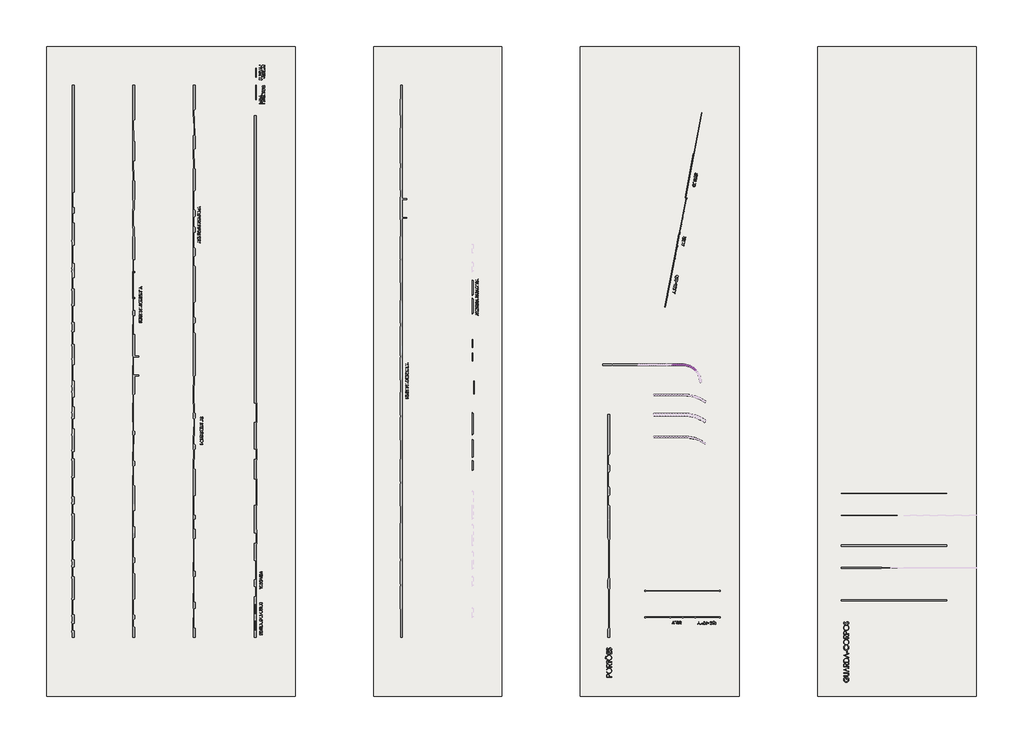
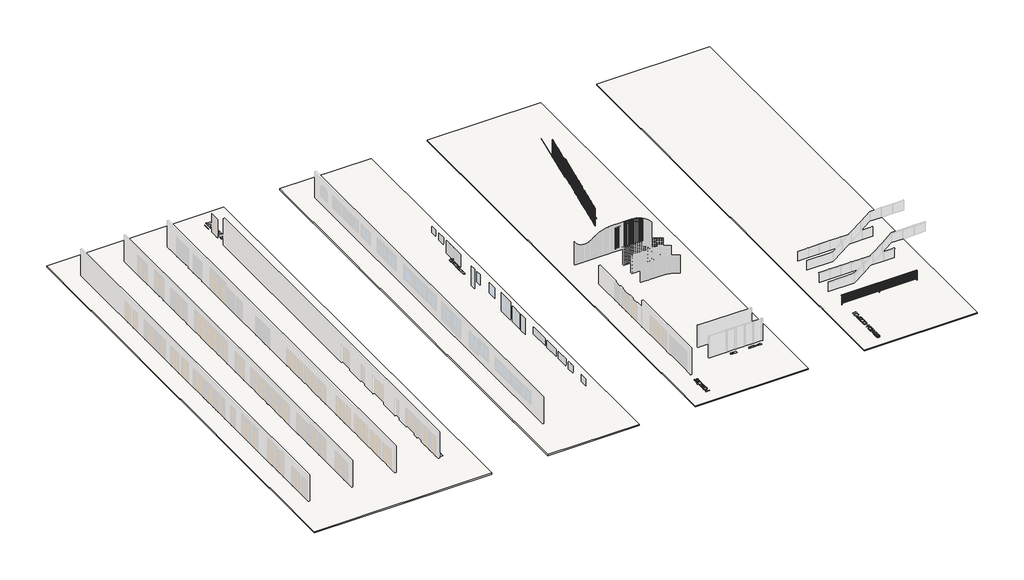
# One storey, part 11 of 15: 63 members, 35 plates, 4 slabs, 3 railings.
"""IFC4 building model written with IfcOpenShell, lengths in millimetres."""

from ifc_helpers import new_model, si_unit, frame, origin, place, context, project, spatial, polyline, outline, extrude, transform, mapped, element, save
from components import circular_mullion_9bc5a1a1, circular_mullion_f2f76ee6, circular_mullion_af346b7b, circular_mullion_dbe84026, circular_mullion_bf9e67b6, circular_mullion_8275ad20, circular_mullion_3d088c91, rectangular_mullion_8aaab3e9, rectangular_mullion_91b8a297, plate_01_dc694022, plate_01_8dd8e818, plate_01_d532bac2, empty_system_panel_vazio_14d0cb9b, empty_system_panel_vazio_91d6d3db, empty_system_panel_vazio_61c9f610, empty_system_panel_vazio_fe81b130, empty_system_panel_vazio_3a64aa83, railing_6e855a38, railing_bfe3bd23, v_110_01_298ecec1

model = new_model("IFC4")

# Units and contexts
model_context = context("Model", 3, world=origin())
ifc_project = project(units=[si_unit("LENGTHUNIT", "METRE", prefix="MILLI")], contexts=[model_context])

# Site, building, storey
site = spatial("IfcSite", under=ifc_project)
building = spatial("IfcBuilding", under=site)
storey = spatial("IfcBuildingStorey", under=building, Name="TÉRREO", Elevation=0.0)

# Members
placement = place(None, origin())
circular_mullion_shape = circular_mullion_9bc5a1a1(model_context)
element("IfcMember", 1, ObjectType="Circular Mullion : GRADIL 40mm", at=placement, inside=storey, context=model_context, shape_type="MappedRepresentation", body=[
    mapped(circular_mullion_shape, transform((45630.1406224, 8426.4806607, 0.0), x_axis=(-1.0, 0.0, 0.0), y_axis=(0.0, 1.0, 0.0), z_axis=(0.0, 0.0, -1.0))),
])
element("IfcMember", 2, ObjectType="Circular Mullion : GRADIL 40mm", at=placement, inside=storey, context=model_context, shape_type="MappedRepresentation", body=[
    mapped(circular_mullion_shape, transform((45481.3601346, 8426.4806607, 0.0), x_axis=(-1.0, 0.0, 0.0), y_axis=(0.0, 1.0, 0.0), z_axis=(0.0, 0.0, -1.0))),
])
element("IfcMember", 3, ObjectType="Circular Mullion : GRADIL 40mm", at=placement, inside=storey, context=model_context, shape_type="MappedRepresentation", body=[
    mapped(circular_mullion_shape, transform((45332.5796468, 8426.4806607, 0.0), x_axis=(-1.0, 0.0, 0.0), y_axis=(0.0, 1.0, 0.0), z_axis=(0.0, 0.0, -1.0))),
])
element("IfcMember", 4, ObjectType="Circular Mullion : GRADIL 40mm", at=placement, inside=storey, context=model_context, shape_type="MappedRepresentation", body=[
    mapped(circular_mullion_shape, transform((45183.799159, 8426.4806607, 0.0), x_axis=(-1.0, 0.0, 0.0), y_axis=(0.0, 1.0, 0.0), z_axis=(0.0, 0.0, -1.0))),
])
element("IfcMember", 5, ObjectType="Circular Mullion : GRADIL 40mm", at=placement, inside=storey, context=model_context, shape_type="MappedRepresentation", body=[
    mapped(circular_mullion_shape, transform((45035.0186712, 8426.4806607, 0.0), x_axis=(-1.0, 0.0, 0.0), y_axis=(0.0, 1.0, 0.0), z_axis=(0.0, 0.0, -1.0))),
])
circular_mullion_2_shape = circular_mullion_f2f76ee6(model_context)
element("IfcMember", 6, ObjectType="Circular Mullion : GRADIL 40mm", at=placement, inside=storey, context=model_context, shape_type="MappedRepresentation", body=[
    mapped(circular_mullion_2_shape, transform((45630.1406224, 8426.4806607, 2720.0), x_axis=(-1.0, 0.0, 0.0), y_axis=(0.0, 1.0, 0.0), z_axis=(0.0, 0.0, -1.0))),
])
element("IfcMember", 7, ObjectType="Circular Mullion : GRADIL 40mm", at=placement, inside=storey, context=model_context, shape_type="MappedRepresentation", body=[
    mapped(circular_mullion_2_shape, transform((45481.3601346, 8426.4806607, 2720.0), x_axis=(-1.0, 0.0, 0.0), y_axis=(0.0, 1.0, 0.0), z_axis=(0.0, 0.0, -1.0))),
])
element("IfcMember", 8, ObjectType="Circular Mullion : GRADIL 40mm", at=placement, inside=storey, context=model_context, shape_type="MappedRepresentation", body=[
    mapped(circular_mullion_2_shape, transform((45332.5796468, 8426.4806607, 2720.0), x_axis=(-1.0, 0.0, 0.0), y_axis=(0.0, 1.0, 0.0), z_axis=(0.0, 0.0, -1.0))),
])
element("IfcMember", 9, ObjectType="Circular Mullion : GRADIL 40mm", at=placement, inside=storey, context=model_context, shape_type="MappedRepresentation", body=[
    mapped(circular_mullion_2_shape, transform((45183.799159, 8426.4806607, 2720.0), x_axis=(-1.0, 0.0, 0.0), y_axis=(0.0, 1.0, 0.0), z_axis=(0.0, 0.0, -1.0))),
])
element("IfcMember", 10, ObjectType="Circular Mullion : GRADIL 40mm", at=placement, inside=storey, context=model_context, shape_type="MappedRepresentation", body=[
    mapped(circular_mullion_2_shape, transform((45035.0186712, 8426.4806607, 2720.0), x_axis=(-1.0, 0.0, 0.0), y_axis=(0.0, 1.0, 0.0), z_axis=(0.0, 0.0, -1.0))),
])
element("IfcMember", 11, ObjectType="Circular Mullion : GRADIL 40mm", at=placement, inside=storey, context=model_context, shape_type="MappedRepresentation", body=[
    mapped(circular_mullion_2_shape, transform((46700.7070956, 8088.8445957, 2720.0), x_axis=(-0.7541066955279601, 0.6567519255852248, 0.0), y_axis=(0.6567519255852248, 0.7541066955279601, 0.0), z_axis=(0.0, 0.0, -1.0))),
])
element("IfcMember", 12, ObjectType="Circular Mullion : GRADIL 40mm", at=placement, inside=storey, context=model_context, shape_type="MappedRepresentation", body=[
    mapped(circular_mullion_2_shape, transform((46587.8449988, 8177.214565, 2720.0), x_axis=(-0.8184647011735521, 0.5745568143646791, 0.0), y_axis=(0.5745568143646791, 0.8184647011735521, 0.0), z_axis=(0.0, 0.0, -1.0))),
])
element("IfcMember", 13, ObjectType="Circular Mullion : GRADIL 40mm", at=placement, inside=storey, context=model_context, shape_type="MappedRepresentation", body=[
    mapped(circular_mullion_2_shape, transform((46466.3852181, 8253.337006, 2720.0), x_axis=(-0.8739030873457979, 0.4861001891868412, 0.0), y_axis=(0.4861001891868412, 0.8739030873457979, 0.0), z_axis=(0.0, 0.0, -1.0))),
])
element("IfcMember", 14, ObjectType="Circular Mullion : GRADIL 40mm", at=placement, inside=storey, context=model_context, shape_type="MappedRepresentation", body=[
    mapped(circular_mullion_2_shape, transform((46337.6514207, 8316.3823371, 2720.0), x_axis=(-0.9198176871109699, 0.39234604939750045, 0.0), y_axis=(0.39234604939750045, 0.9198176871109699, 0.0), z_axis=(0.0, 0.0, -1.0))),
])
element("IfcMember", 15, ObjectType="Circular Mullion : GRADIL 40mm", at=placement, inside=storey, context=model_context, shape_type="MappedRepresentation", body=[
    mapped(circular_mullion_2_shape, transform((46203.0465462, 8365.6634909, 2720.0), x_axis=(-0.9557081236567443, 0.294316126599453, 0.0), y_axis=(0.294316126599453, 0.9557081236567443, 0.0), z_axis=(0.0, 0.0, -1.0))),
])
element("IfcMember", 16, ObjectType="Circular Mullion : GRADIL 40mm", at=placement, inside=storey, context=model_context, shape_type="MappedRepresentation", body=[
    mapped(circular_mullion_2_shape, transform((46064.037517, 8400.6434021, 2720.0), x_axis=(-0.9811832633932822, 0.19307874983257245, 0.0), y_axis=(0.19307874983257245, 0.9811832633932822, 0.0), z_axis=(0.0, 0.0, -1.0))),
])
element("IfcMember", 17, ObjectType="Circular Mullion : GRADIL 40mm", at=placement, inside=storey, context=model_context, shape_type="MappedRepresentation", body=[
    mapped(circular_mullion_2_shape, transform((45922.1392522, 8420.9408598, 2720.0), x_axis=(-0.9959654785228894, 0.08973720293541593, 0.0), y_axis=(0.08973720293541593, 0.9959654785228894, 0.0), z_axis=(0.0, 0.0, -1.0))),
])
circular_mullion_3_shape = circular_mullion_af346b7b(model_context)
element("IfcMember", 18, ObjectType="Circular Mullion : GRADIL 40mm", at=placement, inside=storey, context=model_context, shape_type="MappedRepresentation", body=[
    mapped(circular_mullion_3_shape, transform((45630.1406224, 8426.4806607, 256.7936467), x_axis=(-1.0, 0.0, 0.0), y_axis=(0.0, 1.0, 0.0), z_axis=(0.0, 0.0, -1.0))),
])
element("IfcMember", 19, ObjectType="Circular Mullion : GRADIL 40mm", at=placement, inside=storey, context=model_context, shape_type="MappedRepresentation", body=[
    mapped(circular_mullion_3_shape, transform((45481.3601346, 8426.4806607, 256.7936467), x_axis=(-1.0, 0.0, 0.0), y_axis=(0.0, 1.0, 0.0), z_axis=(0.0, 0.0, -1.0))),
])
element("IfcMember", 20, ObjectType="Circular Mullion : GRADIL 40mm", at=placement, inside=storey, context=model_context, shape_type="MappedRepresentation", body=[
    mapped(circular_mullion_3_shape, transform((45332.5796468, 8426.4806607, 256.7936467), x_axis=(-1.0, 0.0, 0.0), y_axis=(0.0, 1.0, 0.0), z_axis=(0.0, 0.0, -1.0))),
])
element("IfcMember", 21, ObjectType="Circular Mullion : GRADIL 40mm", at=placement, inside=storey, context=model_context, shape_type="MappedRepresentation", body=[
    mapped(circular_mullion_3_shape, transform((45183.799159, 8426.4806607, 256.7936467), x_axis=(-1.0, 0.0, 0.0), y_axis=(0.0, 1.0, 0.0), z_axis=(0.0, 0.0, -1.0))),
])
element("IfcMember", 22, ObjectType="Circular Mullion : GRADIL 40mm", at=placement, inside=storey, context=model_context, shape_type="MappedRepresentation", body=[
    mapped(circular_mullion_3_shape, transform((45035.0186712, 8426.4806607, 256.7936467), x_axis=(-1.0, 0.0, 0.0), y_axis=(0.0, 1.0, 0.0), z_axis=(0.0, 0.0, -1.0))),
])
element("IfcMember", 23, ObjectType="Circular Mullion : GRADIL 40mm", at=placement, inside=storey, context=model_context, shape_type="MappedRepresentation", body=[
    mapped(circular_mullion_3_shape, transform((44886.2381834, 8426.4806607, 256.7936467), x_axis=(-1.0, 0.0, 0.0), y_axis=(0.0, 1.0, 0.0), z_axis=(0.0, 0.0, -1.0))),
])
element("IfcMember", 24, ObjectType="Circular Mullion : GRADIL 40mm", at=placement, inside=storey, context=model_context, shape_type="MappedRepresentation", body=[
    mapped(circular_mullion_3_shape, transform((44737.4576956, 8426.4806607, 256.7936467), x_axis=(-1.0, 0.0, 0.0), y_axis=(0.0, 1.0, 0.0), z_axis=(0.0, 0.0, -1.0))),
])
element("IfcMember", 25, ObjectType="Circular Mullion : GRADIL 40mm", at=placement, inside=storey, context=model_context, shape_type="MappedRepresentation", body=[
    mapped(circular_mullion_3_shape, transform((44588.6772078, 8426.4806607, 256.7936467), x_axis=(-1.0, 0.0, 0.0), y_axis=(0.0, 1.0, 0.0), z_axis=(0.0, 0.0, -1.0))),
])
element("IfcMember", 26, ObjectType="Circular Mullion : GRADIL 40mm", at=placement, inside=storey, context=model_context, shape_type="MappedRepresentation", body=[
    mapped(circular_mullion_3_shape, transform((44439.89672, 8426.4806607, 256.7936467), x_axis=(-1.0, 0.0, 0.0), y_axis=(0.0, 1.0, 0.0), z_axis=(0.0, 0.0, -1.0))),
])
element("IfcMember", 27, ObjectType="Circular Mullion : GRADIL 40mm", at=placement, inside=storey, context=model_context, shape_type="MappedRepresentation", body=[
    mapped(circular_mullion_3_shape, transform((44291.1162322, 8426.4806607, 256.7936467), x_axis=(-1.0, 0.0, 0.0), y_axis=(0.0, 1.0, 0.0), z_axis=(0.0, 0.0, -1.0))),
])
element("IfcMember", 28, ObjectType="Circular Mullion : GRADIL 40mm", at=placement, inside=storey, context=model_context, shape_type="MappedRepresentation", body=[
    mapped(circular_mullion_3_shape, transform((44142.3357444, 8426.4806607, 256.7936467), x_axis=(-1.0, 0.0, 0.0), y_axis=(0.0, 1.0, 0.0), z_axis=(0.0, 0.0, -1.0))),
])
circular_mullion_4_shape = circular_mullion_dbe84026(model_context)
element("IfcMember", 29, ObjectType="Circular Mullion : GRADIL 40mm", at=placement, inside=storey, context=model_context, shape_type="MappedRepresentation", body=[
    mapped(circular_mullion_4_shape, transform((45798.9211102, 8426.4806607, 3000.0), x_axis=(1.0, 0.0, 0.0), y_axis=(0.0, 1.0, 0.0), z_axis=(0.0, 0.0, 1.0))),
])
circular_mullion_5_shape = circular_mullion_bf9e67b6(model_context)
element("IfcMember", 30, ObjectType="Circular Mullion : GRADIL 40mm", at=placement, inside=storey, context=model_context, shape_type="MappedRepresentation", body=[
    mapped(circular_mullion_5_shape, transform((45798.9211102, 8426.4806607, 2720.0), x_axis=(1.0, 0.0, 0.0), y_axis=(0.0, 1.0, 0.0), z_axis=(0.0, 0.0, 1.0))),
])
circular_mullion_6_shape = circular_mullion_8275ad20(model_context)
element("IfcMember", 31, ObjectType="Circular Mullion : GRADIL 40mm", at=placement, inside=storey, context=model_context, shape_type="MappedRepresentation", body=[
    mapped(circular_mullion_6_shape, transform((45798.9211102, 8426.4806607, 256.7936467), x_axis=(1.0, 0.0, 0.0), y_axis=(0.0, 1.0, 0.0), z_axis=(0.0, 0.0, 1.0))),
])
circular_mullion_7_shape = circular_mullion_3d088c91(model_context)
element("IfcMember", 32, ObjectType="Circular Mullion : GRADIL 40mm", at=placement, inside=storey, context=model_context, shape_type="MappedRepresentation", body=[
    mapped(circular_mullion_7_shape, transform((46700.7070956, 8088.8445957, 0.0), x_axis=(-0.7541066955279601, 0.6567519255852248, 0.0), y_axis=(0.6567519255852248, 0.7541066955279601, 0.0), z_axis=(0.0, 0.0, -1.0))),
])
element("IfcMember", 33, ObjectType="Circular Mullion : GRADIL 40mm", at=placement, inside=storey, context=model_context, shape_type="MappedRepresentation", body=[
    mapped(circular_mullion_7_shape, transform((46587.8449988, 8177.214565, 0.0), x_axis=(-0.8184647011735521, 0.5745568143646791, 0.0), y_axis=(0.5745568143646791, 0.8184647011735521, 0.0), z_axis=(0.0, 0.0, -1.0))),
])
element("IfcMember", 34, ObjectType="Circular Mullion : GRADIL 40mm", at=placement, inside=storey, context=model_context, shape_type="MappedRepresentation", body=[
    mapped(circular_mullion_7_shape, transform((46466.3852181, 8253.337006, 0.0), x_axis=(-0.8739030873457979, 0.4861001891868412, 0.0), y_axis=(0.4861001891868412, 0.8739030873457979, 0.0), z_axis=(0.0, 0.0, -1.0))),
])
element("IfcMember", 35, ObjectType="Circular Mullion : GRADIL 40mm", at=placement, inside=storey, context=model_context, shape_type="MappedRepresentation", body=[
    mapped(circular_mullion_7_shape, transform((46337.6514207, 8316.3823371, 0.0), x_axis=(-0.9198176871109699, 0.39234604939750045, 0.0), y_axis=(0.39234604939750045, 0.9198176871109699, 0.0), z_axis=(0.0, 0.0, -1.0))),
])
element("IfcMember", 36, ObjectType="Circular Mullion : GRADIL 40mm", at=placement, inside=storey, context=model_context, shape_type="MappedRepresentation", body=[
    mapped(circular_mullion_7_shape, transform((46203.0465462, 8365.6634909, 0.0), x_axis=(-0.9557081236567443, 0.294316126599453, 0.0), y_axis=(0.294316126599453, 0.9557081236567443, 0.0), z_axis=(0.0, 0.0, -1.0))),
])
element("IfcMember", 37, ObjectType="Circular Mullion : GRADIL 40mm", at=placement, inside=storey, context=model_context, shape_type="MappedRepresentation", body=[
    mapped(circular_mullion_7_shape, transform((46064.037517, 8400.6434021, 0.0), x_axis=(-0.9811832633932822, 0.19307874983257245, 0.0), y_axis=(0.19307874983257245, 0.9811832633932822, 0.0), z_axis=(0.0, 0.0, -1.0))),
])
element("IfcMember", 38, ObjectType="Circular Mullion : GRADIL 40mm", at=placement, inside=storey, context=model_context, shape_type="MappedRepresentation", body=[
    mapped(circular_mullion_7_shape, transform((45922.1392522, 8420.9408598, 0.0), x_axis=(-0.9959654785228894, 0.08973720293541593, 0.0), y_axis=(0.08973720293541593, 0.9959654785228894, 0.0), z_axis=(0.0, 0.0, -1.0))),
])
rectangular_mullion_shape = rectangular_mullion_8aaab3e9(model_context)
element("IfcMember", 39, ObjectType="Rectangular Mullion : MT HRZ GRADIL 01", at=placement, inside=storey, context=model_context, shape_type="MappedRepresentation", body=[
    mapped(rectangular_mullion_shape, transform((45650.1406224, 8426.4806607, 2720.0), x_axis=(0.0, 0.0, 1.0), y_axis=(0.0, 1.0, 0.0), z_axis=(-1.0, 0.0, 0.0))),
])
element("IfcMember", 40, ObjectType="Rectangular Mullion : MT HRZ GRADIL 01", at=placement, inside=storey, context=model_context, shape_type="MappedRepresentation", body=[
    mapped(rectangular_mullion_shape, transform((45501.3601346, 8426.4806607, 2720.0), x_axis=(0.0, 0.0, 1.0), y_axis=(0.0, 1.0, 0.0), z_axis=(-1.0, 0.0, 0.0))),
])
element("IfcMember", 41, ObjectType="Rectangular Mullion : MT HRZ GRADIL 01", at=placement, inside=storey, context=model_context, shape_type="MappedRepresentation", body=[
    mapped(rectangular_mullion_shape, transform((45352.5796468, 8426.4806607, 2720.0), x_axis=(0.0, 0.0, 1.0), y_axis=(0.0, 1.0, 0.0), z_axis=(-1.0, 0.0, 0.0))),
])
element("IfcMember", 42, ObjectType="Rectangular Mullion : MT HRZ GRADIL 01", at=placement, inside=storey, context=model_context, shape_type="MappedRepresentation", body=[
    mapped(rectangular_mullion_shape, transform((45203.799159, 8426.4806607, 2720.0), x_axis=(0.0, 0.0, 1.0), y_axis=(0.0, 1.0, 0.0), z_axis=(-1.0, 0.0, 0.0))),
])
element("IfcMember", 43, ObjectType="Rectangular Mullion : MT HRZ GRADIL 01", at=placement, inside=storey, context=model_context, shape_type="MappedRepresentation", body=[
    mapped(rectangular_mullion_shape, transform((45055.0186712, 8426.4806607, 2720.0), x_axis=(0.0, 0.0, 1.0), y_axis=(0.0, 1.0, 0.0), z_axis=(-1.0, 0.0, 0.0))),
])
element("IfcMember", 44, ObjectType="Rectangular Mullion : MT HRZ GRADIL 01", at=placement, inside=storey, context=model_context, shape_type="MappedRepresentation", body=[
    mapped(rectangular_mullion_shape, transform((45650.1406224, 8426.4806607, 256.7936467), x_axis=(0.0, 0.0, 1.0), y_axis=(0.0, 1.0, 0.0), z_axis=(-1.0, 0.0, 0.0))),
])
element("IfcMember", 45, ObjectType="Rectangular Mullion : MT HRZ GRADIL 01", at=placement, inside=storey, context=model_context, shape_type="MappedRepresentation", body=[
    mapped(rectangular_mullion_shape, transform((45501.3601346, 8426.4806607, 256.7936467), x_axis=(0.0, 0.0, 1.0), y_axis=(0.0, 1.0, 0.0), z_axis=(-1.0, 0.0, 0.0))),
])
element("IfcMember", 46, ObjectType="Rectangular Mullion : MT HRZ GRADIL 01", at=placement, inside=storey, context=model_context, shape_type="MappedRepresentation", body=[
    mapped(rectangular_mullion_shape, transform((45352.5796468, 8426.4806607, 256.7936467), x_axis=(0.0, 0.0, 1.0), y_axis=(0.0, 1.0, 0.0), z_axis=(-1.0, 0.0, 0.0))),
])
element("IfcMember", 47, ObjectType="Rectangular Mullion : MT HRZ GRADIL 01", at=placement, inside=storey, context=model_context, shape_type="MappedRepresentation", body=[
    mapped(rectangular_mullion_shape, transform((45203.799159, 8426.4806607, 256.7936467), x_axis=(0.0, 0.0, 1.0), y_axis=(0.0, 1.0, 0.0), z_axis=(-1.0, 0.0, 0.0))),
])
element("IfcMember", 48, ObjectType="Rectangular Mullion : MT HRZ GRADIL 01", at=placement, inside=storey, context=model_context, shape_type="MappedRepresentation", body=[
    mapped(rectangular_mullion_shape, transform((45055.0186712, 8426.4806607, 256.7936467), x_axis=(0.0, 0.0, 1.0), y_axis=(0.0, 1.0, 0.0), z_axis=(-1.0, 0.0, 0.0))),
])
element("IfcMember", 49, ObjectType="Rectangular Mullion : MT HRZ GRADIL 01", at=placement, inside=storey, context=model_context, shape_type="MappedRepresentation", body=[
    mapped(rectangular_mullion_shape, transform((44906.2381834, 8426.4806607, 256.7936467), x_axis=(0.0, 0.0, 1.0), y_axis=(0.0, 1.0, 0.0), z_axis=(-1.0, 0.0, 0.0))),
])
element("IfcMember", 50, ObjectType="Rectangular Mullion : MT HRZ GRADIL 01", at=placement, inside=storey, context=model_context, shape_type="MappedRepresentation", body=[
    mapped(rectangular_mullion_shape, transform((44757.4576956, 8426.4806607, 256.7936467), x_axis=(0.0, 0.0, 1.0), y_axis=(0.0, 1.0, 0.0), z_axis=(-1.0, 0.0, 0.0))),
])
element("IfcMember", 51, ObjectType="Rectangular Mullion : MT HRZ GRADIL 01", at=placement, inside=storey, context=model_context, shape_type="MappedRepresentation", body=[
    mapped(rectangular_mullion_shape, transform((44608.6772078, 8426.4806607, 256.7936467), x_axis=(0.0, 0.0, 1.0), y_axis=(0.0, 1.0, 0.0), z_axis=(-1.0, 0.0, 0.0))),
])
element("IfcMember", 52, ObjectType="Rectangular Mullion : MT HRZ GRADIL 01", at=placement, inside=storey, context=model_context, shape_type="MappedRepresentation", body=[
    mapped(rectangular_mullion_shape, transform((44459.89672, 8426.4806607, 256.7936467), x_axis=(0.0, 0.0, 1.0), y_axis=(0.0, 1.0, 0.0), z_axis=(-1.0, 0.0, 0.0))),
])
element("IfcMember", 53, ObjectType="Rectangular Mullion : MT HRZ GRADIL 01", at=placement, inside=storey, context=model_context, shape_type="MappedRepresentation", body=[
    mapped(rectangular_mullion_shape, transform((44311.1162322, 8426.4806607, 256.7936467), x_axis=(0.0, 0.0, 1.0), y_axis=(0.0, 1.0, 0.0), z_axis=(-1.0, 0.0, 0.0))),
])
element("IfcMember", 54, ObjectType="Rectangular Mullion : MT HRZ GRADIL 01", at=placement, inside=storey, context=model_context, shape_type="MappedRepresentation", body=[
    mapped(rectangular_mullion_shape, transform((44162.3357444, 8426.4806607, 256.7936467), x_axis=(0.0, 0.0, 1.0), y_axis=(0.0, 1.0, 0.0), z_axis=(-1.0, 0.0, 0.0))),
])
element("IfcMember", 55, ObjectType="Rectangular Mullion : MT HRZ GRADIL 01", at=placement, inside=storey, context=model_context, shape_type="MappedRepresentation", body=[
    mapped(rectangular_mullion_shape, transform((44013.5552566, 8426.4806607, 256.7936467), x_axis=(0.0, 0.0, 1.0), y_axis=(0.0, 1.0, 0.0), z_axis=(-1.0, 0.0, 0.0))),
])
rectangular_mullion_2_shape = rectangular_mullion_91b8a297(model_context)
element("IfcMember", 56, ObjectType="Rectangular Mullion : MT HRZ GRADIL 01", at=placement, inside=storey, context=model_context, shape_type="MappedRepresentation", body=[
    mapped(rectangular_mullion_2_shape, transform((46715.083064, 8074.9402247, 2720.0), x_axis=(0.0, 0.0, 1.0), y_axis=(0.6952185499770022, 0.7187984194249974, 0.0), z_axis=(-0.7187984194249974, 0.6952185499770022, 0.0))),
])
element("IfcMember", 57, ObjectType="Rectangular Mullion : MT HRZ GRADIL 01", at=placement, inside=storey, context=model_context, shape_type="MappedRepresentation", body=[
    mapped(rectangular_mullion_2_shape, transform((46603.592179, 8164.8846698, 2720.0), x_axis=(0.0, 0.0, 1.0), y_axis=(0.6164947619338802, 0.787359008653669, 0.0), z_axis=(-0.787359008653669, 0.6164947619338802, 0.0))),
])
element("IfcMember", 58, ObjectType="Rectangular Mullion : MT HRZ GRADIL 01", at=placement, inside=storey, context=model_context, shape_type="MappedRepresentation", body=[
    mapped(rectangular_mullion_2_shape, transform((46483.3319974, 8242.7159576, 2720.0), x_axis=(0.0, 0.0, 1.0), y_axis=(0.531052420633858, 0.8473389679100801, 0.0), z_axis=(-0.8473389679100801, 0.531052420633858, 0.0))),
])
element("IfcMember", 59, ObjectType="Rectangular Mullion : MT HRZ GRADIL 01", at=placement, inside=storey, context=model_context, shape_type="MappedRepresentation", body=[
    mapped(rectangular_mullion_2_shape, transform((46355.6131134, 8307.5858836, 2720.0), x_axis=(0.0, 0.0, 1.0), y_axis=(0.43982267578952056, 0.8980846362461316, 0.0), z_axis=(-0.8980846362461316, 0.43982267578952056, 0.0))),
])
element("IfcMember", 60, ObjectType="Rectangular Mullion : MT HRZ GRADIL 01", at=placement, inside=storey, context=model_context, shape_type="MappedRepresentation", body=[
    mapped(rectangular_mullion_2_shape, transform((46221.8274059, 8358.787496, 2720.0), x_axis=(0.0, 0.0, 1.0), y_axis=(0.34379974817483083, 0.9390429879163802, 0.0), z_axis=(-0.9390429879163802, 0.34379974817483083, 0.0))),
])
element("IfcMember", 61, ObjectType="Rectangular Mullion : MT HRZ GRADIL 01", at=placement, inside=storey, context=model_context, shape_type="MappedRepresentation", body=[
    mapped(rectangular_mullion_2_shape, transform((46083.4328702, 8395.7628002, 2720.0), x_axis=(0.0, 0.0, 1.0), y_axis=(0.24403009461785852, 0.9697676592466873, 0.0), z_axis=(-0.9697676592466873, 0.24403009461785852, 0.0))),
])
element("IfcMember", 62, ObjectType="Rectangular Mullion : MT HRZ GRADIL 01", at=placement, inside=storey, context=model_context, shape_type="MappedRepresentation", body=[
    mapped(rectangular_mullion_2_shape, transform((45941.9377284, 8418.1088397, 2720.0), x_axis=(0.0, 0.0, 1.0), y_axis=(0.14160100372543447, 0.9899238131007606, 0.0), z_axis=(-0.9899238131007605, 0.14160100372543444, 0.0))),
])
element("IfcMember", 63, ObjectType="Rectangular Mullion : MT HRZ GRADIL 01", at=placement, inside=storey, context=model_context, shape_type="MappedRepresentation", body=[
    mapped(rectangular_mullion_2_shape, transform((45798.9211102, 8426.4806607, 2720.0), x_axis=(0.0, 0.0, 1.0), y_axis=(0.04491392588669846, 0.9989908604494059, 0.0), z_axis=(-0.9989908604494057, 0.04491392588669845, 0.0))),
])

# Plates
plate_01_shape = plate_01_dc694022(model_context)
element("IfcPlate", 64, ObjectType="pnl - PORTÃO DE ABRIR 01 - 2 FOLHAS : 01", at=placement, inside=storey, context=model_context, shape_type="MappedRepresentation", body=[
    mapped(plate_01_shape, transform((44836.4568021, 14691.1981955, 0.0), x_axis=(0.19111951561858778, 0.9815667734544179, 0.0), y_axis=(-0.9815667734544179, 0.19111951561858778, 0.0), z_axis=(0.0, 0.0, 1.0))),
])
plate_01_2_shape = plate_01_8dd8e818(model_context)
element("IfcPlate", 65, ObjectType="pnl - PORTÃO DE CORRER 01 - 1 FOLHA : 01", at=placement, inside=storey, context=model_context, shape_type="MappedRepresentation", body=[
    mapped(plate_01_2_shape, transform((46419.0389937, 22770.645208, 0.0), x_axis=(0.18539773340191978, 0.9826635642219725, 0.0), y_axis=(-0.9826635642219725, 0.18539773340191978, 0.0), z_axis=(0.0, 0.0, 1.0))),
])
plate_01_3_shape = plate_01_d532bac2(model_context)
element("IfcPlate", 66, ObjectType="pnl - PORTÃO DE ABRIR 01 - 1 FOLHA : 01", at=placement, inside=storey, context=model_context, shape_type="MappedRepresentation", body=[
    mapped(plate_01_3_shape, transform((45478.6002395, 17989.1609309, 0.0), x_axis=(0.19111982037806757, 0.9815667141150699, 0.0), y_axis=(-0.9815667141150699, 0.19111982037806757, 0.0), z_axis=(0.0, 0.0, 1.0))),
])
empty_system_panel_vazio_shape = empty_system_panel_vazio_14d0cb9b(model_context)
element("IfcPlate", 67, ObjectType="Empty System Panel : VAZIO", at=placement, inside=storey, context=model_context, shape_type="MappedRepresentation", body=[
    mapped(empty_system_panel_vazio_shape, transform((45704.5308663, 8426.4806607, 0.0), x_axis=(-1.0, 0.0, 0.0), y_axis=(0.0, -1.0, 0.0), z_axis=(0.0, 0.0, 1.0))),
])
element("IfcPlate", 68, ObjectType="Empty System Panel : VAZIO", at=placement, inside=storey, context=model_context, shape_type="MappedRepresentation", body=[
    mapped(empty_system_panel_vazio_shape, transform((45555.7503785, 8426.4806607, 0.0), x_axis=(-1.0, 0.0, 0.0), y_axis=(0.0, -1.0, 0.0), z_axis=(0.0, 0.0, 1.0))),
])
element("IfcPlate", 69, ObjectType="Empty System Panel : VAZIO", at=placement, inside=storey, context=model_context, shape_type="MappedRepresentation", body=[
    mapped(empty_system_panel_vazio_shape, transform((45406.9698907, 8426.4806607, 0.0), x_axis=(-1.0, 0.0, 0.0), y_axis=(0.0, -1.0, 0.0), z_axis=(0.0, 0.0, 1.0))),
])
element("IfcPlate", 70, ObjectType="Empty System Panel : VAZIO", at=placement, inside=storey, context=model_context, shape_type="MappedRepresentation", body=[
    mapped(empty_system_panel_vazio_shape, transform((45258.1894029, 8426.4806607, 0.0), x_axis=(-1.0, 0.0, 0.0), y_axis=(0.0, -1.0, 0.0), z_axis=(0.0, 0.0, 1.0))),
])
element("IfcPlate", 71, ObjectType="Empty System Panel : VAZIO", at=placement, inside=storey, context=model_context, shape_type="MappedRepresentation", body=[
    mapped(empty_system_panel_vazio_shape, transform((45109.4089151, 8426.4806607, 0.0), x_axis=(-1.0, 0.0, 0.0), y_axis=(0.0, -1.0, 0.0), z_axis=(0.0, 0.0, 1.0))),
])
empty_system_panel_vazio_2_shape = empty_system_panel_vazio_91d6d3db(model_context)
element("IfcPlate", 72, ObjectType="Empty System Panel : VAZIO", at=placement, inside=storey, context=model_context, shape_type="MappedRepresentation", body=[
    mapped(empty_system_panel_vazio_2_shape, transform((45704.5308663, 8426.4806607, 2735.0), x_axis=(-1.0, 0.0, 0.0), y_axis=(0.0, -1.0, 0.0), z_axis=(0.0, 0.0, 1.0))),
])
element("IfcPlate", 73, ObjectType="Empty System Panel : VAZIO", at=placement, inside=storey, context=model_context, shape_type="MappedRepresentation", body=[
    mapped(empty_system_panel_vazio_2_shape, transform((45555.7503785, 8426.4806607, 2735.0), x_axis=(-1.0, 0.0, 0.0), y_axis=(0.0, -1.0, 0.0), z_axis=(0.0, 0.0, 1.0))),
])
element("IfcPlate", 74, ObjectType="Empty System Panel : VAZIO", at=placement, inside=storey, context=model_context, shape_type="MappedRepresentation", body=[
    mapped(empty_system_panel_vazio_2_shape, transform((45406.9698907, 8426.4806607, 2735.0), x_axis=(-1.0, 0.0, 0.0), y_axis=(0.0, -1.0, 0.0), z_axis=(0.0, 0.0, 1.0))),
])
element("IfcPlate", 75, ObjectType="Empty System Panel : VAZIO", at=placement, inside=storey, context=model_context, shape_type="MappedRepresentation", body=[
    mapped(empty_system_panel_vazio_2_shape, transform((45258.1894029, 8426.4806607, 2735.0), x_axis=(-1.0, 0.0, 0.0), y_axis=(0.0, -1.0, 0.0), z_axis=(0.0, 0.0, 1.0))),
])
element("IfcPlate", 76, ObjectType="Empty System Panel : VAZIO", at=placement, inside=storey, context=model_context, shape_type="MappedRepresentation", body=[
    mapped(empty_system_panel_vazio_2_shape, transform((45109.4089151, 8426.4806607, 2735.0), x_axis=(-1.0, 0.0, 0.0), y_axis=(0.0, -1.0, 0.0), z_axis=(0.0, 0.0, 1.0))),
])
empty_system_panel_vazio_3_shape = empty_system_panel_vazio_61c9f610(model_context)
element("IfcPlate", 77, ObjectType="Empty System Panel : VAZIO", at=placement, inside=storey, context=model_context, shape_type="MappedRepresentation", body=[
    mapped(empty_system_panel_vazio_3_shape, transform((45704.5308663, 8426.4806607, 271.7936467), x_axis=(-1.0, 0.0, 0.0), y_axis=(0.0, -1.0, 0.0), z_axis=(0.0, 0.0, 1.0))),
])
element("IfcPlate", 78, ObjectType="Empty System Panel : VAZIO", at=placement, inside=storey, context=model_context, shape_type="MappedRepresentation", body=[
    mapped(empty_system_panel_vazio_3_shape, transform((45555.7503785, 8426.4806607, 271.7936467), x_axis=(-1.0, 0.0, 0.0), y_axis=(0.0, -1.0, 0.0), z_axis=(0.0, 0.0, 1.0))),
])
element("IfcPlate", 79, ObjectType="Empty System Panel : VAZIO", at=placement, inside=storey, context=model_context, shape_type="MappedRepresentation", body=[
    mapped(empty_system_panel_vazio_3_shape, transform((45406.9698907, 8426.4806607, 271.7936467), x_axis=(-1.0, 0.0, 0.0), y_axis=(0.0, -1.0, 0.0), z_axis=(0.0, 0.0, 1.0))),
])
element("IfcPlate", 80, ObjectType="Empty System Panel : VAZIO", at=placement, inside=storey, context=model_context, shape_type="MappedRepresentation", body=[
    mapped(empty_system_panel_vazio_3_shape, transform((45258.1894029, 8426.4806607, 271.7936467), x_axis=(-1.0, 0.0, 0.0), y_axis=(0.0, -1.0, 0.0), z_axis=(0.0, 0.0, 1.0))),
])
element("IfcPlate", 81, ObjectType="Empty System Panel : VAZIO", at=placement, inside=storey, context=model_context, shape_type="MappedRepresentation", body=[
    mapped(empty_system_panel_vazio_3_shape, transform((45109.4089151, 8426.4806607, 271.7936467), x_axis=(-1.0, 0.0, 0.0), y_axis=(0.0, -1.0, 0.0), z_axis=(0.0, 0.0, 1.0))),
])
element("IfcPlate", 82, ObjectType="Empty System Panel : VAZIO", at=placement, inside=storey, context=model_context, shape_type="MappedRepresentation", body=[
    mapped(empty_system_panel_vazio_3_shape, transform((44067.9455005, 8426.4806607, 271.7936467), x_axis=(-1.0, 0.0, 0.0), y_axis=(0.0, -1.0, 0.0), z_axis=(0.0, 0.0, 1.0))),
])
empty_system_panel_vazio_4_shape = empty_system_panel_vazio_fe81b130(model_context)
element("IfcPlate", 83, ObjectType="Empty System Panel : VAZIO", at=placement, inside=storey, context=model_context, shape_type="MappedRepresentation", body=[
    mapped(empty_system_panel_vazio_4_shape, transform((46752.224317, 8039.0173743, 0.0), x_axis=(-0.7187984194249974, 0.6952185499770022, 0.0), y_axis=(-0.6952185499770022, -0.7187984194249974, 0.0), z_axis=(0.0, 0.0, 1.0))),
])
element("IfcPlate", 84, ObjectType="Empty System Panel : VAZIO", at=placement, inside=storey, context=model_context, shape_type="MappedRepresentation", body=[
    mapped(empty_system_panel_vazio_4_shape, transform((46644.2760472, 8133.0295803, 0.0), x_axis=(-0.787359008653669, 0.6164947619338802, 0.0), y_axis=(-0.6164947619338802, -0.787359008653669, 0.0), z_axis=(0.0, 0.0, 1.0))),
])
element("IfcPlate", 85, ObjectType="Empty System Panel : VAZIO", at=placement, inside=storey, context=model_context, shape_type="MappedRepresentation", body=[
    mapped(empty_system_panel_vazio_4_shape, transform((46527.1151085, 8215.2757855, 0.0), x_axis=(-0.8473389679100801, 0.531052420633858, 0.0), y_axis=(-0.531052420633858, -0.8473389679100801, 0.0), z_axis=(0.0, 0.0, 1.0))),
])
element("IfcPlate", 86, ObjectType="Empty System Panel : VAZIO", at=placement, inside=storey, context=model_context, shape_type="MappedRepresentation", body=[
    mapped(empty_system_panel_vazio_4_shape, transform((46402.0183194, 8284.8596715, 0.0), x_axis=(-0.8980846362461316, 0.43982267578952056, 0.0), y_axis=(-0.43982267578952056, -0.8980846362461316, 0.0), z_axis=(0.0, 0.0, 1.0))),
])
element("IfcPlate", 87, ObjectType="Empty System Panel : VAZIO", at=placement, inside=storey, context=model_context, shape_type="MappedRepresentation", body=[
    mapped(empty_system_panel_vazio_4_shape, transform((46270.3489834, 8341.022914, 0.0), x_axis=(-0.9390429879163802, 0.3437997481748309, 0.0), y_axis=(-0.3437997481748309, -0.9390429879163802, 0.0), z_axis=(0.0, 0.0, 1.0))),
])
element("IfcPlate", 88, ObjectType="Empty System Panel : VAZIO", at=placement, inside=storey, context=model_context, shape_type="MappedRepresentation", body=[
    mapped(empty_system_panel_vazio_4_shape, transform((46133.5420316, 8383.1534465, 0.0), x_axis=(-0.9697676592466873, 0.24403009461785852, 0.0), y_axis=(-0.24403009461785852, -0.9697676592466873, 0.0), z_axis=(0.0, 0.0, 1.0))),
])
element("IfcPlate", 89, ObjectType="Empty System Panel : VAZIO", at=placement, inside=storey, context=model_context, shape_type="MappedRepresentation", body=[
    mapped(empty_system_panel_vazio_4_shape, transform((45993.0883846, 8410.7921309, 0.0), x_axis=(-0.9899238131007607, 0.14160100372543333, 0.0), y_axis=(-0.14160100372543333, -0.9899238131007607, 0.0), z_axis=(0.0, 0.0, 1.0))),
])
element("IfcPlate", 90, ObjectType="Empty System Panel : VAZIO", at=placement, inside=storey, context=model_context, shape_type="MappedRepresentation", body=[
    mapped(empty_system_panel_vazio_4_shape, transform((45850.5402726, 8424.1598995, 0.0), x_axis=(-0.9989908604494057, 0.04491392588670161, 0.0), y_axis=(-0.04491392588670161, -0.9989908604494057, 0.0), z_axis=(0.0, 0.0, 1.0))),
])
empty_system_panel_vazio_5_shape = empty_system_panel_vazio_3a64aa83(model_context)
element("IfcPlate", 91, ObjectType="Empty System Panel : VAZIO", at=placement, inside=storey, context=model_context, shape_type="MappedRepresentation", body=[
    mapped(empty_system_panel_vazio_5_shape, transform((46752.224317, 8039.0173743, 2735.0), x_axis=(-0.7187984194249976, 0.695218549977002, 0.0), y_axis=(-0.695218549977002, -0.7187984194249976, 0.0), z_axis=(0.0, 0.0, 1.0))),
])
element("IfcPlate", 92, ObjectType="Empty System Panel : VAZIO", at=placement, inside=storey, context=model_context, shape_type="MappedRepresentation", body=[
    mapped(empty_system_panel_vazio_5_shape, transform((46644.2760472, 8133.0295803, 2735.0), x_axis=(-0.787359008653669, 0.6164947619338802, 0.0), y_axis=(-0.6164947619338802, -0.787359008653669, 0.0), z_axis=(0.0, 0.0, 1.0))),
])
element("IfcPlate", 93, ObjectType="Empty System Panel : VAZIO", at=placement, inside=storey, context=model_context, shape_type="MappedRepresentation", body=[
    mapped(empty_system_panel_vazio_5_shape, transform((46527.1151085, 8215.2757855, 2735.0), x_axis=(-0.8473389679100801, 0.531052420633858, 0.0), y_axis=(-0.531052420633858, -0.8473389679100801, 0.0), z_axis=(0.0, 0.0, 1.0))),
])
element("IfcPlate", 94, ObjectType="Empty System Panel : VAZIO", at=placement, inside=storey, context=model_context, shape_type="MappedRepresentation", body=[
    mapped(empty_system_panel_vazio_5_shape, transform((46402.0183194, 8284.8596715, 2735.0), x_axis=(-0.8980846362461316, 0.4398226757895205, 0.0), y_axis=(-0.4398226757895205, -0.8980846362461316, 0.0), z_axis=(0.0, 0.0, 1.0))),
])
element("IfcPlate", 95, ObjectType="Empty System Panel : VAZIO", at=placement, inside=storey, context=model_context, shape_type="MappedRepresentation", body=[
    mapped(empty_system_panel_vazio_5_shape, transform((46270.3489834, 8341.022914, 2735.0), x_axis=(-0.9390429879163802, 0.3437997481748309, 0.0), y_axis=(-0.3437997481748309, -0.9390429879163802, 0.0), z_axis=(0.0, 0.0, 1.0))),
])
element("IfcPlate", 96, ObjectType="Empty System Panel : VAZIO", at=placement, inside=storey, context=model_context, shape_type="MappedRepresentation", body=[
    mapped(empty_system_panel_vazio_5_shape, transform((46133.5420316, 8383.1534465, 2735.0), x_axis=(-0.9697676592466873, 0.2440300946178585, 0.0), y_axis=(-0.2440300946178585, -0.9697676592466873, 0.0), z_axis=(0.0, 0.0, 1.0))),
])
element("IfcPlate", 97, ObjectType="Empty System Panel : VAZIO", at=placement, inside=storey, context=model_context, shape_type="MappedRepresentation", body=[
    mapped(empty_system_panel_vazio_5_shape, transform((45993.0883846, 8410.7921309, 2735.0), x_axis=(-0.9899238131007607, 0.14160100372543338, 0.0), y_axis=(-0.14160100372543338, -0.9899238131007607, 0.0), z_axis=(0.0, 0.0, 1.0))),
])
element("IfcPlate", 98, ObjectType="Empty System Panel : VAZIO", at=placement, inside=storey, context=model_context, shape_type="MappedRepresentation", body=[
    mapped(empty_system_panel_vazio_5_shape, transform((45850.5402726, 8424.1598995, 2735.0), x_axis=(-0.9989908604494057, 0.044913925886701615, 0.0), y_axis=(-0.044913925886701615, -0.9989908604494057, 0.0), z_axis=(0.0, 0.0, 1.0))),
])

# Railings
railing_shape = railing_6e855a38(model_context)
element("IfcRailing", 99, ObjectType="GRADIL V 200 01", at=placement, inside=storey, context=model_context, shape_type="MappedRepresentation", body=[
    mapped(railing_shape, transform((0.0, 0.0, 0.0), x_axis=(1.0, 0.0, 0.0), y_axis=(0.0, 1.0, 0.0), z_axis=(0.0, 0.0, 1.0))),
])
railing_2_shape = railing_bfe3bd23(model_context)
element("IfcRailing", 100, ObjectType="GRADIL V 200 01", at=placement, inside=storey, context=model_context, shape_type="MappedRepresentation", body=[
    mapped(railing_2_shape, transform((0.0, 0.0, 0.0), x_axis=(1.0, 0.0, 0.0), y_axis=(0.0, 1.0, 0.0), z_axis=(0.0, 0.0, 1.0))),
])
v_110_01_shape = v_110_01_298ecec1(model_context)
element("IfcRailing", 101, ObjectType="V 110 01", at=placement, inside=storey, context=model_context, shape_type="MappedRepresentation", body=[
    mapped(v_110_01_shape, transform((0.0, 0.0, 0.0), x_axis=(1.0, 0.0, 0.0), y_axis=(0.0, 1.0, 0.0), z_axis=(0.0, 0.0, 1.0))),
])

# Slabs
element("IfcSlab", 102, ObjectType="CONCRETO - PISO GENÉRICO (15 cm)", at=placement, inside=storey, context=model_context, shape_type="SweptSolid", body=[
    extrude(outline(polyline([(16188.1914793, 32766.0803682), (16188.1914793, -16919.9603765), (-2811.8085207, -16919.9603765), (-2811.8085207, 32766.0803682), (16188.1914793, 32766.0803682)])), frame((0.0, 0.0, -150.0), z_axis=(0.0, 0.0, 1.0), x_axis=(1.0, 0.0, 0.0)), (0.0, 0.0, 1.0), 150.0),
])
element("IfcSlab", 103, ObjectType="CONCRETO - PISO GENÉRICO (15 cm)", at=placement, inside=storey, context=model_context, shape_type="SweptSolid", body=[
    extrude(outline(polyline([(31991.3161052, 32766.0803682), (31991.3161052, -16919.9603765), (22188.1914793, -16919.9603765), (22188.1914793, 32766.0803682), (31991.3161052, 32766.0803682)])), frame((0.0, 0.0, -150.0), z_axis=(0.0, 0.0, 1.0), x_axis=(1.0, 0.0, 0.0)), (0.0, 0.0, 1.0), 150.0),
])
element("IfcSlab", 104, ObjectType="CONCRETO - PISO GENÉRICO (15 cm)", at=placement, inside=storey, context=model_context, shape_type="SweptSolid", body=[
    extrude(outline(polyline([(50118.294682, 32766.0803682), (50118.294682, -16919.9603765), (37991.3161052, -16919.9603765), (37991.3161052, 32766.0803682), (50118.294682, 32766.0803682)])), frame((0.0, 0.0, -150.0), z_axis=(0.0, 0.0, 1.0), x_axis=(1.0, 0.0, 0.0)), (0.0, 0.0, 1.0), 150.0),
])
element("IfcSlab", 105, ObjectType="CONCRETO - PISO GENÉRICO (15 cm)", at=placement, inside=storey, context=model_context, shape_type="SweptSolid", body=[
    extrude(outline(polyline([(68245.2732588, 32766.0803682), (68245.2732588, -16919.9603765), (56118.294682, -16919.9603765), (56118.294682, 32766.0803682), (68245.2732588, 32766.0803682)])), frame((0.0, 0.0, -150.0), z_axis=(0.0, 0.0, 1.0), x_axis=(1.0, 0.0, 0.0)), (0.0, 0.0, 1.0), 150.0),
])

save(model, "model.ifc")
